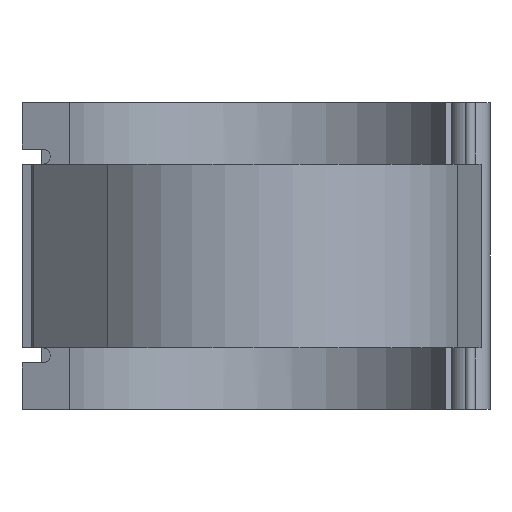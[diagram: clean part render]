
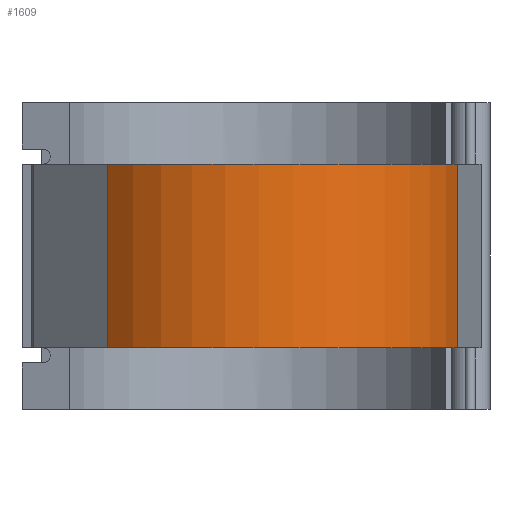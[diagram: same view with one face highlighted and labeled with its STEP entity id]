
A CAD part, front view. The second image highlights one B-rep face of the part: STEP entity #1609.
In plain terms, the highlighted cylindrical face has radius 206 mm (diameter 412 mm), a partial arc.
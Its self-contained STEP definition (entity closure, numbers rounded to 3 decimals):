
#189=FACE_OUTER_BOUND('',#299,.T.);
#299=EDGE_LOOP('',(#1461,#1462,#1463,#1464));
#391=CIRCLE('',#1796,206.);
#394=CIRCLE('',#1800,206.);
#511=LINE('',#3352,#624);
#515=LINE('',#3361,#628);
#624=VECTOR('',#2284,10.);
#628=VECTOR('',#2298,10.);
#773=VERTEX_POINT('',#3315);
#774=VERTEX_POINT('',#3317);
#777=VERTEX_POINT('',#3325);
#778=VERTEX_POINT('',#3327);
#990=EDGE_CURVE('',#773,#774,#391,.T.);
#995=EDGE_CURVE('',#777,#778,#394,.T.);
#1009=EDGE_CURVE('',#777,#774,#511,.T.);
#1013=EDGE_CURVE('',#773,#778,#515,.T.);
#1461=ORIENTED_EDGE('',*,*,#1013,.T.);
#1462=ORIENTED_EDGE('',*,*,#995,.F.);
#1463=ORIENTED_EDGE('',*,*,#1009,.T.);
#1464=ORIENTED_EDGE('',*,*,#990,.F.);
#1520=CYLINDRICAL_SURFACE('',#1815,206.);
#1609=ADVANCED_FACE('',(#189),#1520,.T.);
#1796=AXIS2_PLACEMENT_3D('',#3318,#2246,#2247);
#1800=AXIS2_PLACEMENT_3D('',#3328,#2256,#2257);
#1815=AXIS2_PLACEMENT_3D('',#3362,#2299,#2300);
#2246=DIRECTION('center_axis',(0.,0.,-1.));
#2247=DIRECTION('ref_axis',(0.726,0.688,0.));
#2256=DIRECTION('center_axis',(0.,0.,1.));
#2257=DIRECTION('ref_axis',(0.726,0.688,0.));
#2284=DIRECTION('',(0.,0.,-1.));
#2298=DIRECTION('',(0.,0.,1.));
#2299=DIRECTION('center_axis',(0.,0.,1.));
#2300=DIRECTION('ref_axis',(0.726,0.688,0.));
#3315=CARTESIAN_POINT('',(199.718,-50.486,-91.8));
#3317=CARTESIAN_POINT('',(-149.58,-141.64,-91.8));
#3318=CARTESIAN_POINT('Origin',(0.,0.,
-91.8));
#3325=CARTESIAN_POINT('',(-149.58,-141.64,91.8));
#3327=CARTESIAN_POINT('',(199.718,-50.486,91.8));
#3328=CARTESIAN_POINT('Origin',(0.,0.,
91.8));
#3352=CARTESIAN_POINT('',(-149.58,-141.64,0.));
#3361=CARTESIAN_POINT('',(199.718,-50.486,0.));
#3362=CARTESIAN_POINT('Origin',(0.,0.,
0.));
